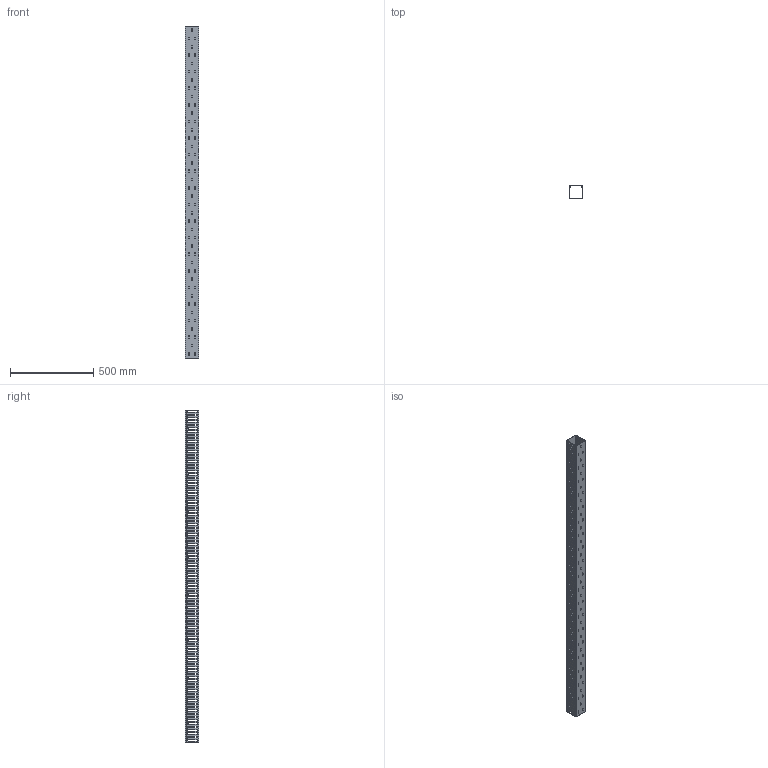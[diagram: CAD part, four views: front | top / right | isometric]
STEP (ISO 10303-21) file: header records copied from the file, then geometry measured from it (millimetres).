
FILE_DESCRIPTION (( 'STEP AP214' ), '1' );
FILE_NAME ('KD-88-20-H.STEP', '2020-02-19T01:08:40', ( '' ), ( '' ), 'SwSTEP 2.0', 'SolidWorks 2018', '' );
FILE_SCHEMA (( 'AUTOMOTIVE_DESIGN' ));
Length unit declared in the file: millimetre
Products named in the file (3): KD-86-20-cover; KD-88-20-H; KD-88-20-H-body
Assembly tree (2 placements, depth 2):
  KD-88-20-H
    KD-88-20-H-body
    KD-86-20-cover
Bounding box: 80 x 80.17 x 2000 mm (x, y, z)
Volume: 978247.5 mm3; surface area: 1241176 mm2
Topology: 2 solids, 2 shells, 1963 faces, 5877 edges, 3918 vertices
Faces by surface type: cylinder 1017, plane 946
Entity records: 67875 total; most frequent: DIRECTION 11847, CARTESIAN_POINT 11763, ORIENTED_EDGE 11754, EDGE_CURVE 5877, AXIS2_PLACEMENT_3D 4002, VERTEX_POINT 3918, LINE 3843, VECTOR 3843
